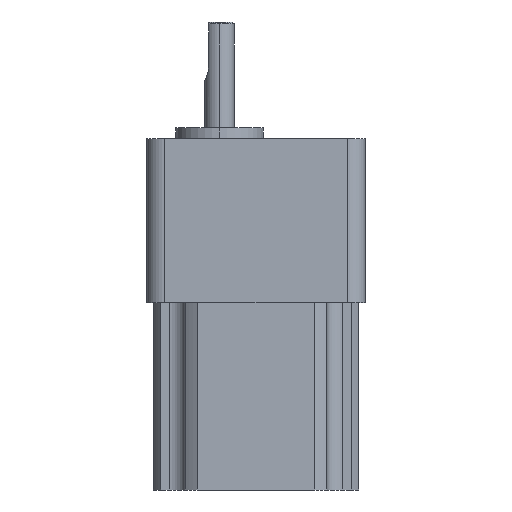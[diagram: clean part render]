
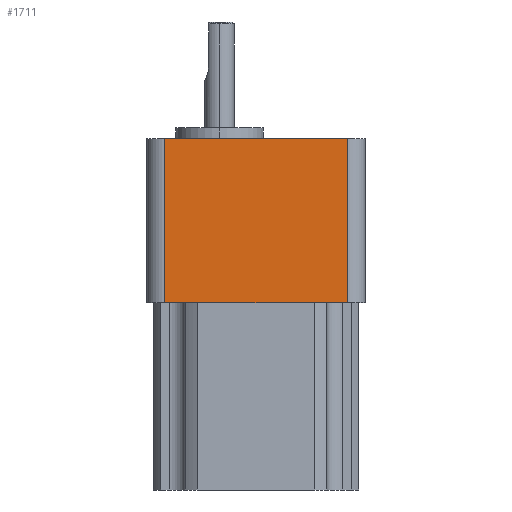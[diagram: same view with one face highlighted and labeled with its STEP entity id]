
A CAD part, left-side view. The second image highlights one B-rep face of the part: STEP entity #1711.
In plain terms, the highlighted planar face has unit normal (-1, 0, 0).
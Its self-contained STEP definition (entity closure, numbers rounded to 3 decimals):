
#4 = LINE ( 'NONE', #301, #1089 ) ;
#6 = CARTESIAN_POINT ( 'NONE',  ( -30., -35., 0. ) ) ;
#14 = ORIENTED_EDGE ( 'NONE', *, *, #710, .T. ) ;
#55 = FACE_OUTER_BOUND ( 'NONE', #121, .T. ) ;
#121 = EDGE_LOOP ( 'NONE', ( #1781, #806, #1269, #14 ) ) ;
#132 = DIRECTION ( 'NONE',  ( 0., 0., 1. ) ) ;
#134 = LINE ( 'NONE', #1741, #1442 ) ;
#195 = DIRECTION ( 'NONE',  ( 0., 1., 0. ) ) ;
#250 = LINE ( 'NONE', #400, #1207 ) ;
#301 = CARTESIAN_POINT ( 'NONE',  ( -30., -35., -45. ) ) ;
#400 = CARTESIAN_POINT ( 'NONE',  ( -30., -35., -45. ) ) ;
#406 = VERTEX_POINT ( 'NONE', #6 ) ;
#485 = CARTESIAN_POINT ( 'NONE',  ( -30., -35., -45. ) ) ;
#710 = EDGE_CURVE ( 'NONE', #979, #406, #4, .T. ) ;
#769 = EDGE_CURVE ( 'NONE', #1111, #1726, #134, .T. ) ;
#783 = CARTESIAN_POINT ( 'NONE',  ( -30., -35., 0. ) ) ;
#806 = ORIENTED_EDGE ( 'NONE', *, *, #769, .F. ) ;
#832 = LINE ( 'NONE', #783, #1257 ) ;
#935 = AXIS2_PLACEMENT_3D ( 'NONE', #1696, #1846, #980 ) ;
#979 = VERTEX_POINT ( 'NONE', #485 ) ;
#980 = DIRECTION ( 'NONE',  ( 0., 0., -1. ) ) ;
#1027 = EDGE_CURVE ( 'NONE', #406, #1726, #832, .T. ) ;
#1089 = VECTOR ( 'NONE', #132, 1000. ) ;
#1111 = VERTEX_POINT ( 'NONE', #1668 ) ;
#1159 = DIRECTION ( 'NONE',  ( 0., 0., 1. ) ) ;
#1207 = VECTOR ( 'NONE', #1697, 1000. ) ;
#1257 = VECTOR ( 'NONE', #195, 1000. ) ;
#1269 = ORIENTED_EDGE ( 'NONE', *, *, #1298, .F. ) ;
#1298 = EDGE_CURVE ( 'NONE', #979, #1111, #250, .T. ) ;
#1442 = VECTOR ( 'NONE', #1159, 1000. ) ;
#1550 = PLANE ( 'NONE',  #935 ) ;
#1668 = CARTESIAN_POINT ( 'NONE',  ( -30., 15., -45. ) ) ;
#1676 = CARTESIAN_POINT ( 'NONE',  ( -30., 15., 0. ) ) ;
#1696 = CARTESIAN_POINT ( 'NONE',  ( -30., -35., -45. ) ) ;
#1697 = DIRECTION ( 'NONE',  ( 0., 1., 0. ) ) ;
#1711 = ADVANCED_FACE ( 'NONE', ( #55 ), #1550, .F. ) ;
#1726 = VERTEX_POINT ( 'NONE', #1676 ) ;
#1741 = CARTESIAN_POINT ( 'NONE',  ( -30., 15., -45. ) ) ;
#1781 = ORIENTED_EDGE ( 'NONE', *, *, #1027, .T. ) ;
#1846 = DIRECTION ( 'NONE',  ( 1., 0., 0. ) ) ;
